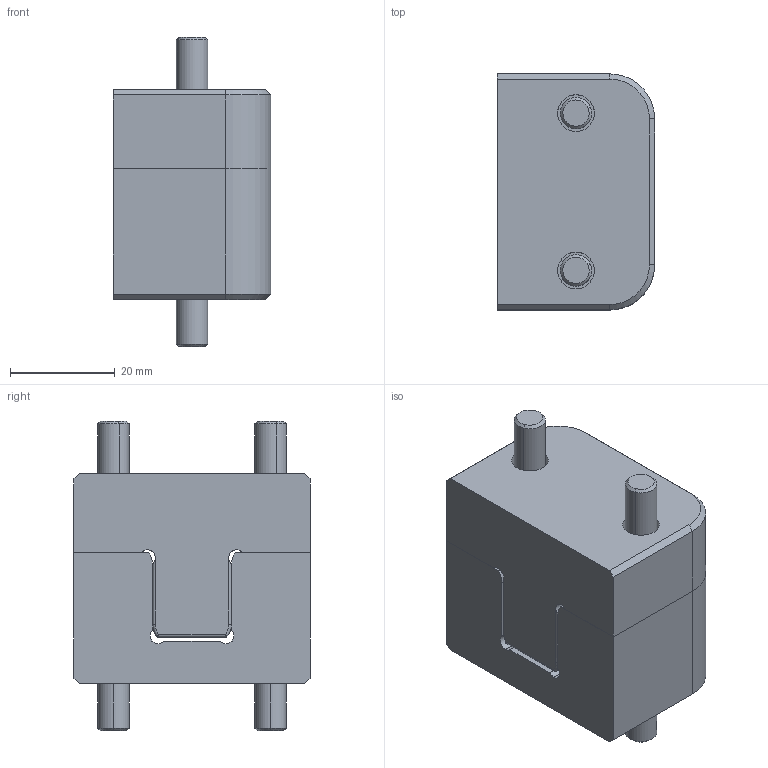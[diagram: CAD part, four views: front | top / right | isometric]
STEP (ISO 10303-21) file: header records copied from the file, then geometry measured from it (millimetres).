
FILE_DESCRIPTION (( 'STEP AP203' ), '1' );
FILE_NAME ('TLM30X45.step', '2018-03-16T16:55:00', ( '' ), ( '' ), 'SwSTEP 2.0', 'SolidWorks 2015', '' );
FILE_SCHEMA (( 'CONFIG_CONTROL_DESIGN' ));
Length unit declared in the file: millimetre
Products named in the file (5): M6_X_18; M6_X_25; TLM30X45 MALE; TLM30X45; TLM30X45 FEMALE
Assembly tree (6 placements, depth 2):
  TLM30X45
    TLM30X45 MALE
    TLM30X45 FEMALE
    M6_X_18  x2
    M6_X_25  x2
Bounding box: 30 x 45 x 59 mm (x, y, z)
Volume: 50754.9 mm3; surface area: 17979.9 mm2
Topology: 6 solids, 6 shells, 440 faces, 954 edges, 624 vertices
Faces by surface type: cylinder 229, plane 165, cone 22, torus 18, bspline 6
Entity records: 11995 total; most frequent: CARTESIAN_POINT 2147, DIRECTION 2130, ORIENTED_EDGE 1756, AXIS2_PLACEMENT_3D 887, EDGE_CURVE 878, VERTEX_POINT 576, EDGE_LOOP 506, CIRCLE 480
